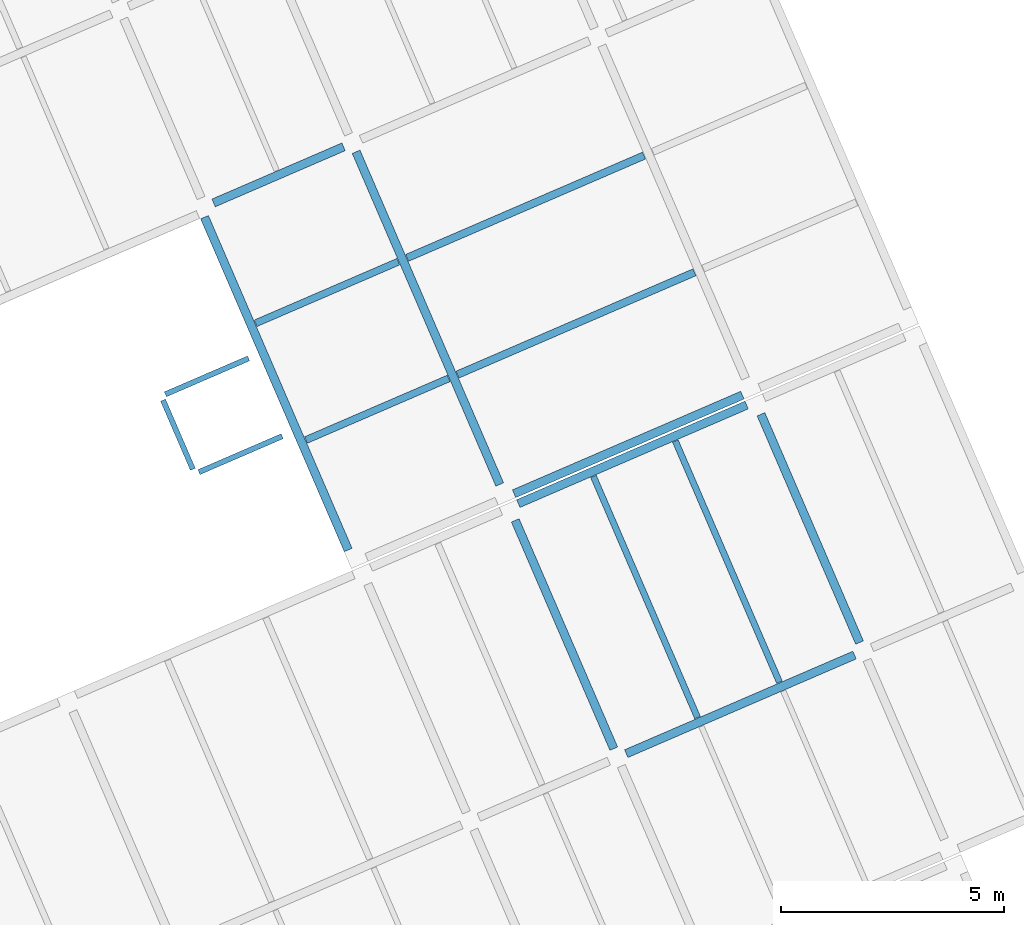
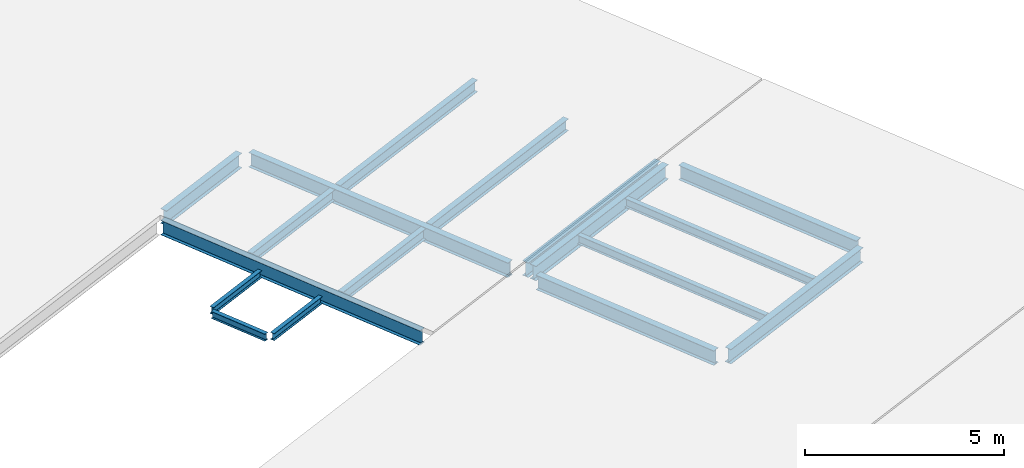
# One storey, part 12 of 15: 17 beams.
"""IFC4 building model written with IfcOpenShell, lengths in metres."""

from ifc_helpers import new_model, entity, si_unit, converted_unit, derived_unit, direction, frame, origin, place, context, subcontext, project, spatial, line, arc, indexed_curve, outline, extrude, source, transform, mapped, material, type_object, type_shapes, element, save


model = new_model("IFC4")

# Units and contexts
model_context = context("Model", 3, precision=1e-05, world=origin(), true_north=direction((6.12323399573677e-17, 1.0)))
body_context = subcontext(model_context, "Body", "Model", "MODEL_VIEW")
ifc_project = project(units=[si_unit("LENGTHUNIT", "METRE"), si_unit("AREAUNIT", "SQUARE_METRE"), si_unit("VOLUMEUNIT", "CUBIC_METRE"), converted_unit("PLANEANGLEUNIT", "DEGREE", entity("IfcPlaneAngleMeasure", 0.0174532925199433), si_unit("PLANEANGLEUNIT", "RADIAN"), dimensions=[0, 0, 0, 0, 0, 0, 0]), si_unit("MASSUNIT", "GRAM", prefix="KILO"), derived_unit("MOMENTOFINERTIAUNIT", [(si_unit("LENGTHUNIT", "METRE"), 4)]), derived_unit("LINEARFORCEUNIT", [(si_unit("MASSUNIT", "GRAM", prefix="KILO"), 1), (si_unit("TIMEUNIT", "SECOND"), -2)]), derived_unit("WARPINGCONSTANTUNIT", [(si_unit("LENGTHUNIT", "METRE"), 6)]), derived_unit("THERMALTRANSMITTANCEUNIT", [(si_unit("MASSUNIT", "GRAM", prefix="KILO"), 1), (si_unit("THERMODYNAMICTEMPERATUREUNIT", "KELVIN"), -1), (si_unit("TIMEUNIT", "SECOND"), -3)]), derived_unit("USERDEFINED", [(si_unit("MASSUNIT", "GRAM", prefix="KILO"), 1), (si_unit("TIMEUNIT", "SECOND"), -2), (si_unit("THERMODYNAMICTEMPERATUREUNIT", "KELVIN"), -1)]), derived_unit("THERMALRESISTANCEUNIT", [(si_unit("MASSUNIT", "GRAM", prefix="KILO"), -1), (si_unit("TIMEUNIT", "SECOND"), 3), (si_unit("THERMODYNAMICTEMPERATUREUNIT", "KELVIN"), 1)])], contexts=[model_context])

# Site, building, storey
site_placement = place(None, origin())
site = spatial("IfcSite", under=ifc_project, at=site_placement, Name="Default", CompositionType="ELEMENT")
building_placement = place(site_placement, frame((12.6613425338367, -82.5732315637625, 317.15), z_axis=(0.0, 0.0, 1.0), x_axis=(-0.396377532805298, 0.918087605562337, 0.0)))
building = spatial("IfcBuilding", under=site, at=building_placement, Name="CESFAM Coyhaique", CompositionType="ELEMENT")
storey_placement = place(building_placement, frame((0.0, 0.0, 8.45000000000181)))
storey = spatial("IfcBuildingStorey", under=building, at=storey_placement, Name="Nivel 3", CompositionType="ELEMENT", Elevation=8.45000000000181)

# Beams
ifc_material = material(Name="Steel, 45-345", Category="Metal")
beam_type_1 = type_object("IfcBeamType", Name="M_W Shapes:W450X190mm", PredefinedType="BEAM", material=ifc_material)
shared_shape_1 = source(origin(), body_context, "Body", "SweptSolid", [
    extrude(outline(indexed_curve([(-0.0949999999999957, -0.225000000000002), (0.0950000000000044, -0.225000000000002), (0.0950000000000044, -0.215350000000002), (0.0105700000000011, -0.215350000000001), (0.00516063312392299, -0.21310936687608), (0.0029200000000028, -0.207700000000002), (0.0029200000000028, 0.207699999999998), (0.00516063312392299, 0.213109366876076), (0.0105700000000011, 0.215349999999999), (0.0950000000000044, 0.215349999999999), (0.0950000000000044, 0.224999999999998), (-0.0949999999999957, 0.224999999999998), (-0.0949999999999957, 0.215349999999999), (-0.0105699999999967, 0.215349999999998), (-0.00516063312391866, 0.213109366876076), (-0.00291999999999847, 0.207699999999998), (-0.00291999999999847, -0.207700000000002), (-0.00516063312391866, -0.21310936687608), (-0.0105699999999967, -0.215350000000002), (-0.0949999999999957, -0.215350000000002)], segments=[line(1, 2, 3, 4), arc(4, 5, 6), line(6, 7), arc(7, 8, 9), line(9, 10, 11, 12, 13, 14), arc(14, 15, 16), line(16, 17), arc(17, 18, 19), line(19, 20, 1)], self_intersect=False)), frame((28.7688534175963, -20.9844495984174, 8.07500000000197), z_axis=(0.0, 1.0, 0.0), x_axis=(-1.0, 0.0, 0.0)), (0.0, 0.0, 1.0), 5.5746),
])
type_shapes(beam_type_1, [shared_shape_1])
beam_1_placement = place(storey_placement, frame((0.0, 0.0, -8.45000000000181)))
element("IfcBeam", 1, at=beam_1_placement, inside=storey, type_object=beam_type_1, Name="M_W Shapes:W450X190mm", ObjectType="M_W Shapes:W450X190mm", PredefinedType="BEAM", context=body_context, shape_type="MappedRepresentation", body=[
    mapped(shared_shape_1, transform((0.0, 0.0, 0.0), scale=1.0)),
])
beam_type_2 = type_object("IfcBeamType", Name="M_W Shapes:W450X190mm", PredefinedType="BEAM", material=ifc_material)
shared_shape_2 = source(origin(), body_context, "Body", "SweptSolid", [
    extrude(outline(indexed_curve([(-0.224999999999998, -0.0950000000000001), (-0.215349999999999, -0.0950000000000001), (-0.215349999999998, -0.0105699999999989), (-0.213109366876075, -0.00516063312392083), (-0.207699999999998, -0.00291999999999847), (0.207700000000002, -0.00291999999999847), (0.213109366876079, -0.00516063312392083), (0.215350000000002, -0.0105699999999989), (0.215350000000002, -0.0950000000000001), (0.225000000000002, -0.0950000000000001), (0.225000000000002, 0.0950000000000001), (0.215350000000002, 0.0950000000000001), (0.215350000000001, 0.0105700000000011), (0.213109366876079, 0.00516063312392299), (0.207700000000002, 0.00292000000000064), (-0.207699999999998, 0.00292000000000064), (-0.213109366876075, 0.00516063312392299), (-0.215349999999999, 0.0105700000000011), (-0.215349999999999, 0.0950000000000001), (-0.224999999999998, 0.0950000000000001)], segments=[line(1, 2, 3), arc(3, 4, 5), line(5, 6), arc(6, 7, 8), line(8, 9, 10, 11, 12, 13), arc(13, 14, 15), line(15, 16), arc(16, 17, 18), line(18, 19, 20, 1)], self_intersect=False)), frame((28.981553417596, -15.1971495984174, 8.07500000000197), z_axis=(1.0, 0.0, 0.0), x_axis=(0.0, 0.0, -1.0)), (0.0, 0.0, 1.0), 5.5746),
])
type_shapes(beam_type_2, [shared_shape_2])
beam_2_placement = place(storey_placement, frame((0.0, 0.0, -8.45000000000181)))
element("IfcBeam", 2, at=beam_2_placement, inside=storey, type_object=beam_type_2, Name="M_W Shapes:W450X190mm", ObjectType="M_W Shapes:W450X190mm", PredefinedType="BEAM", context=body_context, shape_type="MappedRepresentation", body=[
    mapped(shared_shape_2, transform((0.0, 0.0, 0.0), scale=1.0)),
])
beam_type_3 = type_object("IfcBeamType", Name="M_W Shapes:W450X190mm", PredefinedType="BEAM", material=ifc_material)
shared_shape_3 = source(origin(), body_context, "Body", "SweptSolid", [
    extrude(outline(indexed_curve([(-0.0950000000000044, -0.225000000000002), (0.0949999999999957, -0.225000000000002), (0.0950000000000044, -0.215350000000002), (0.0105699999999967, -0.215350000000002), (0.00516063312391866, -0.213109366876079), (0.0029200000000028, -0.207700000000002), (0.00291999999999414, 0.207699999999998), (0.00516063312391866, 0.213109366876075), (0.0105699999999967, 0.215349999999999), (0.0949999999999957, 0.215349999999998), (0.0949999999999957, 0.224999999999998), (-0.0950000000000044, 0.224999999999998), (-0.0950000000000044, 0.215349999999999), (-0.0105700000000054, 0.215349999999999), (-0.00516063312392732, 0.213109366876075), (-0.0029200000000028, 0.207699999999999), (-0.0029200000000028, -0.207700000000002), (-0.00516063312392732, -0.213109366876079), (-0.0105699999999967, -0.215350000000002), (-0.0950000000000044, -0.215350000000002)], segments=[line(1, 2, 3, 4), arc(4, 5, 6), line(6, 7), arc(7, 8, 9), line(9, 10, 11, 12, 13, 14), arc(14, 15, 16), line(16, 17), arc(17, 18, 19), line(19, 20, 1)], self_intersect=False)), frame((43.7688534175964, -14.9844495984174, 8.07500000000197), z_axis=(0.0, 1.0, 0.0), x_axis=(-1.0, 0.0, 0.0)), (0.0, 0.0, 1.0), 3.1746),
])
type_shapes(beam_type_3, [shared_shape_3])
beam_3_placement = place(storey_placement, frame((0.0, 0.0, -8.45000000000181)))
element("IfcBeam", 3, at=beam_3_placement, inside=storey, type_object=beam_type_3, Name="M_W Shapes:W450X190mm", ObjectType="M_W Shapes:W450X190mm", PredefinedType="BEAM", context=body_context, shape_type="MappedRepresentation", body=[
    mapped(shared_shape_3, transform((0.0, 0.0, 0.0), scale=1.0)),
])
beam_type_4 = type_object("IfcBeamType", Name="M_W Shapes:W450X190mm", PredefinedType="BEAM", material=ifc_material)
shared_shape_4 = source(origin(), body_context, "Body", "SweptSolid", [
    extrude(outline(indexed_curve([(-0.224999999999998, -0.0950000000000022), (-0.215349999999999, -0.0950000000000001), (-0.215349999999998, -0.0105700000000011), (-0.213109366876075, -0.00516063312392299), (-0.207699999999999, -0.00292000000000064), (0.207700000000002, -0.00292000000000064), (0.213109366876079, -0.00516063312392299), (0.215350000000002, -0.0105700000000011), (0.215350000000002, -0.0950000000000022), (0.225000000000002, -0.0950000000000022), (0.225000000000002, 0.0949999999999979), (0.215350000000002, 0.0949999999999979), (0.215350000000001, 0.0105699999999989), (0.213109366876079, 0.00516063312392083), (0.207700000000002, 0.00291999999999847), (-0.207699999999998, 0.00291999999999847), (-0.213109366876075, 0.00516063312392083), (-0.215349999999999, 0.0105699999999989), (-0.215349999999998, 0.0949999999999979), (-0.224999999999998, 0.0949999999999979)], segments=[line(1, 2, 3), arc(3, 4, 5), line(5, 6), arc(6, 7, 8), line(8, 9, 10, 11, 12, 13), arc(13, 14, 15), line(15, 16), arc(16, 17, 18), line(18, 19, 20, 1)], self_intersect=False)), frame((35.4315534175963, -11.4971495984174, 8.07500000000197), z_axis=(1.0, 0.0, 0.0), x_axis=(0.0, 0.0, -1.0)), (0.0, 0.0, 1.0), 8.1246),
])
type_shapes(beam_type_4, [shared_shape_4])
beam_4_placement = place(storey_placement, frame((0.0, 0.0, -8.45000000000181)))
element("IfcBeam", 4, at=beam_4_placement, inside=storey, type_object=beam_type_4, Name="M_W Shapes:W450X190mm", ObjectType="M_W Shapes:W450X190mm", PredefinedType="BEAM", context=body_context, shape_type="MappedRepresentation", body=[
    mapped(shared_shape_4, transform((0.0, 0.0, 0.0), scale=1.0)),
])
beam_type_5 = type_object("IfcBeamType", Name="M_W Shapes:W450X190mm", PredefinedType="BEAM", material=ifc_material)
shared_shape_5 = source(origin(), body_context, "Body", "SweptSolid", [
    extrude(outline(indexed_curve([(-0.224999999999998, -0.0950000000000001), (-0.215349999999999, -0.0949999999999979), (-0.215349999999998, -0.0105699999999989), (-0.213109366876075, -0.00516063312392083), (-0.207699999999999, -0.00291999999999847), (0.207700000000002, -0.00291999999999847), (0.213109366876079, -0.00516063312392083), (0.215350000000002, -0.0105699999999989), (0.215350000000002, -0.0950000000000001), (0.225000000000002, -0.0950000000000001), (0.225000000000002, 0.0950000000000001), (0.215350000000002, 0.0950000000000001), (0.215350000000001, 0.0105700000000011), (0.213109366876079, 0.00516063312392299), (0.207700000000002, 0.00292000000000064), (-0.207699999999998, 0.00292000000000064), (-0.213109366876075, 0.00516063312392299), (-0.215349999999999, 0.0105700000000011), (-0.215349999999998, 0.0950000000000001), (-0.224999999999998, 0.0950000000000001)], segments=[line(1, 2, 3), arc(3, 4, 5), line(5, 6), arc(6, 7, 8), line(8, 9, 10, 11, 12, 13), arc(13, 14, 15), line(15, 16), arc(16, 17, 18), line(18, 19, 20, 1)], self_intersect=False)), frame((35.4315534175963, -15.1971495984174, 8.07500000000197), z_axis=(1.0, 0.0, 0.0), x_axis=(0.0, 0.0, -1.0)), (0.0, 0.0, 1.0), 8.1246),
])
type_shapes(beam_type_5, [shared_shape_5])
beam_5_placement = place(storey_placement, frame((0.0, 0.0, -8.45000000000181)))
element("IfcBeam", 5, at=beam_5_placement, inside=storey, type_object=beam_type_5, Name="M_W Shapes:W450X190mm", ObjectType="M_W Shapes:W450X190mm", PredefinedType="BEAM", context=body_context, shape_type="MappedRepresentation", body=[
    mapped(shared_shape_5, transform((0.0, 0.0, 0.0), scale=1.0)),
])
beam_type_6 = type_object("IfcBeamType", Name="M_W Shapes:W450X190mm", PredefinedType="BEAM", material=ifc_material)
shared_shape_6 = source(origin(), body_context, "Body", "SweptSolid", [
    extrude(outline(indexed_curve([(-0.224999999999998, -0.0950000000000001), (-0.215349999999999, -0.0950000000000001), (-0.215349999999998, -0.0105700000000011), (-0.213109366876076, -0.00516063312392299), (-0.207699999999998, -0.0029200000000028), (0.207700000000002, -0.0029200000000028), (0.21310936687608, -0.00516063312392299), (0.215350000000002, -0.0105700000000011), (0.215350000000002, -0.0950000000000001), (0.225000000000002, -0.0950000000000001), (0.225000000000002, 0.0950000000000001), (0.215350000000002, 0.0950000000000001), (0.215350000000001, 0.0105699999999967), (0.21310936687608, 0.00516063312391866), (0.207700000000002, 0.00291999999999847), (-0.207699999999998, 0.00291999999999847), (-0.213109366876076, 0.00516063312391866), (-0.215349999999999, 0.0105699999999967), (-0.215349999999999, 0.0950000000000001), (-0.224999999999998, 0.0950000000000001)], segments=[line(1, 2, 3), arc(3, 4, 5), line(5, 6), arc(6, 7, 8), line(8, 9, 10, 11, 12, 13), arc(13, 14, 15), line(15, 16), arc(16, 17, 18), line(18, 19, 20, 1)], self_intersect=False)), frame((28.9815534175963, -21.1971495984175, 8.07500000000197), z_axis=(1.0, 0.0, 0.0), x_axis=(0.0, 0.0, -1.0)), (0.0, 0.0, 1.0), 5.5746),
])
type_shapes(beam_type_6, [shared_shape_6])
beam_6_placement = place(storey_placement, frame((0.0, 0.0, -8.45000000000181)))
element("IfcBeam", 6, at=beam_6_placement, inside=storey, type_object=beam_type_6, Name="M_W Shapes:W450X190mm", ObjectType="M_W Shapes:W450X190mm", PredefinedType="BEAM", context=body_context, shape_type="MappedRepresentation", body=[
    mapped(shared_shape_6, transform((0.0, 0.0, 0.0), scale=1.0)),
])
beam_type_7 = type_object("IfcBeamType", Name="M_W Shapes:W450X190mm", PredefinedType="BEAM", material=ifc_material)
shared_shape_7 = source(origin(), body_context, "Body", "SweptSolid", [
    extrude(outline(indexed_curve([(-0.0950000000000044, -0.225000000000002), (0.0949999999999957, -0.225000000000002), (0.0949999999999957, -0.215350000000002), (0.0105699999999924, -0.215350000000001), (0.00516063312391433, -0.21310936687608), (0.00291999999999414, -0.207700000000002), (0.00291999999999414, 0.207699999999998), (0.00516063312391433, 0.213109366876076), (0.0105699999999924, 0.215349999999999), (0.0949999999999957, 0.215349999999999), (0.0949999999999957, 0.224999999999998), (-0.0950000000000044, 0.224999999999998), (-0.0950000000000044, 0.215349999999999), (-0.0105700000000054, 0.215349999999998), (-0.00516063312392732, 0.213109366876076), (-0.00292000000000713, 0.207699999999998), (-0.00292000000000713, -0.207700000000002), (-0.00516063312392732, -0.21310936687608), (-0.0105700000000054, -0.215350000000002), (-0.0950000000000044, -0.215350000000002)], segments=[line(1, 2, 3, 4), arc(4, 5, 6), line(6, 7), arc(7, 8, 9), line(9, 10, 11, 12, 13, 14), arc(14, 15, 16), line(16, 17), arc(17, 18, 19), line(19, 20, 1)], self_intersect=False)), frame((34.8738534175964, -20.9844495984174, 8.07500000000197), z_axis=(0.0, 1.0, 0.0), x_axis=(-1.0, 0.0, 0.0)), (0.0, 0.0, 1.0), 5.5746),
])
type_shapes(beam_type_7, [shared_shape_7])
beam_7_placement = place(storey_placement, frame((0.0, 0.0, -8.45000000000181)))
element("IfcBeam", 7, at=beam_7_placement, inside=storey, type_object=beam_type_7, Name="M_W Shapes:W450X190mm", ObjectType="M_W Shapes:W450X190mm", PredefinedType="BEAM", context=body_context, shape_type="MappedRepresentation", body=[
    mapped(shared_shape_7, transform((0.0, 0.0, 0.0), scale=1.0)),
])
beam_type_8 = type_object("IfcBeamType", Name="M_W Shapes:W450X190mm", PredefinedType="BEAM", material=ifc_material)
shared_shape_8 = source(origin(), body_context, "Body", "SweptSolid", [
    extrude(outline(indexed_curve([(-0.0950000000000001, -0.225000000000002), (0.0950000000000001, -0.225000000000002), (0.0950000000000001, -0.215350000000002), (0.0105699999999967, -0.215350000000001), (0.00516063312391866, -0.21310936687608), (0.00291999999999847, -0.207700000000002), (0.00291999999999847, 0.207699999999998), (0.00516063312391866, 0.213109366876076), (0.0105699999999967, 0.215349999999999), (0.0950000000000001, 0.215349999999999), (0.0950000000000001, 0.224999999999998), (-0.0950000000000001, 0.224999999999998), (-0.0950000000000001, 0.215349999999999), (-0.0105700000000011, 0.215349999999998), (-0.00516063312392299, 0.213109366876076), (-0.0029200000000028, 0.207699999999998), (-0.0029200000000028, -0.207700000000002), (-0.00516063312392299, -0.21310936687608), (-0.0105700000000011, -0.215350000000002), (-0.0950000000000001, -0.215350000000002)], segments=[line(1, 2, 3, 4), arc(4, 5, 6), line(6, 7), arc(7, 8, 9), line(9, 10, 11, 12, 13, 14), arc(14, 15, 16), line(16, 17), arc(17, 18, 19), line(19, 20, 1)], self_intersect=False)), frame((35.1138534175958, -20.9844495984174, 8.07500000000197), z_axis=(0.0, 1.0, 0.0), x_axis=(-1.0, 0.0, 0.0)), (0.0, 0.0, 1.0), 5.5746),
])
type_shapes(beam_type_8, [shared_shape_8])
beam_8_placement = place(storey_placement, frame((0.0, 0.0, -8.45000000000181)))
element("IfcBeam", 8, at=beam_8_placement, inside=storey, type_object=beam_type_8, Name="M_W Shapes:W450X190mm", ObjectType="M_W Shapes:W450X190mm", PredefinedType="BEAM", context=body_context, shape_type="MappedRepresentation", body=[
    mapped(shared_shape_8, transform((0.0, 0.0, 0.0), scale=1.0)),
])
beam_type_9 = type_object("IfcBeamType", Name="M_W Shapes:W270X140mm", PredefinedType="BEAM", material=ifc_material)
shared_shape_9 = source(origin(), body_context, "Body", "SweptSolid", [
    extrude(outline(indexed_curve([(-0.135000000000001, -0.0699999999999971), (-0.125350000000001, -0.0699999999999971), (-0.12535, -0.0105699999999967), (-0.123109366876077, -0.00516063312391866), (-0.117700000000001, -0.0029199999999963), (0.117699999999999, -0.0029199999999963), (0.123109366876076, -0.00516063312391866), (0.12535, -0.0105699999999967), (0.12535, -0.0699999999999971), (0.135, -0.0699999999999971), (0.135, 0.0700000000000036), (0.12535, 0.0700000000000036), (0.125349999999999, 0.0105700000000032), (0.123109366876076, 0.00516063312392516), (0.117699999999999, 0.0029200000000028), (-0.1177, 0.0029200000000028), (-0.123109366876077, 0.00516063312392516), (-0.125350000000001, 0.0105700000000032), (-0.125350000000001, 0.0700000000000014), (-0.135, 0.0700000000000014)], segments=[line(1, 2, 3), arc(3, 4, 5), line(5, 6), arc(6, 7, 8), line(8, 9, 10, 11, 12, 13), arc(13, 14, 15), line(15, 16), arc(16, 17, 18), line(18, 19, 20, 1)], self_intersect=False)), frame((28.8765534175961, -17.1972701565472, 8.16500000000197), z_axis=(1.0, 0.0, 0.0), x_axis=(0.0, 0.0, -1.0)), (0.0, 0.0, 1.0), 5.8896),
])
type_shapes(beam_type_9, [shared_shape_9])
beam_9_placement = place(storey_placement, frame((0.0, 0.0, -8.45000000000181)))
element("IfcBeam", 9, at=beam_9_placement, inside=storey, type_object=beam_type_9, Name="M_W Shapes:W270X140mm", ObjectType="M_W Shapes:W270X140mm", PredefinedType="BEAM", context=body_context, shape_type="MappedRepresentation", body=[
    mapped(shared_shape_9, transform((0.0, 0.0, 0.0), scale=1.0)),
])
beam_type_10 = type_object("IfcBeamType", Name="M_W Shapes:W270X140mm", PredefinedType="BEAM", material=ifc_material)
shared_shape_10 = source(origin(), body_context, "Body", "SweptSolid", [
    extrude(outline(indexed_curve([(-0.135000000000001, -0.0699999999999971), (-0.125350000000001, -0.0699999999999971), (-0.12535, -0.0105699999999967), (-0.123109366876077, -0.00516063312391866), (-0.117700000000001, -0.0029199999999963), (0.117699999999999, -0.0029199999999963), (0.123109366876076, -0.00516063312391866), (0.12535, -0.0105699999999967), (0.12535, -0.0699999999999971), (0.135, -0.0699999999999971), (0.135, 0.0700000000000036), (0.12535, 0.0700000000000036), (0.125349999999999, 0.0105700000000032), (0.123109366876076, 0.00516063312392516), (0.117699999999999, 0.0029200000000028), (-0.1177, 0.0029200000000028), (-0.123109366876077, 0.00516063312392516), (-0.125350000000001, 0.0105700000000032), (-0.125350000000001, 0.0700000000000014), (-0.135, 0.0700000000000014)], segments=[line(1, 2, 3), arc(3, 4, 5), line(5, 6), arc(6, 7, 8), line(8, 9, 10, 11, 12, 13), arc(13, 14, 15), line(15, 16), arc(16, 17, 18), line(18, 19, 20, 1)], self_intersect=False)), frame((28.8765534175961, -19.1972701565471, 8.16500000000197), z_axis=(1.0, 0.0, 0.0), x_axis=(0.0, 0.0, -1.0)), (0.0, 0.0, 1.0), 5.8896),
])
type_shapes(beam_type_10, [shared_shape_10])
beam_10_placement = place(storey_placement, frame((0.0, 0.0, -8.45000000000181)))
element("IfcBeam", 10, at=beam_10_placement, inside=storey, type_object=beam_type_10, Name="M_W Shapes:W270X140mm", ObjectType="M_W Shapes:W270X140mm", PredefinedType="BEAM", context=body_context, shape_type="MappedRepresentation", body=[
    mapped(shared_shape_10, transform((0.0, 0.0, 0.0), scale=1.0)),
])
beam_type_11 = type_object("IfcBeamType", Name="M_W Shapes:W330X160mm", PredefinedType="BEAM", material=ifc_material)
shared_shape_11 = source(origin(), body_context, "Body", "SweptSolid", [
    extrude(outline(indexed_curve([(-0.0800000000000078, -0.165), (0.0799999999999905, -0.164999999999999), (0.0799999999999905, -0.155349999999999), (0.0105699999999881, -0.155349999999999), (0.00516063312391, -0.153109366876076), (0.00291999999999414, -0.147699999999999), (0.00291999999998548, 0.147700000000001), (0.00516063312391, 0.153109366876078), (0.0105699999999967, 0.15535), (0.0799999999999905, 0.15535), (0.0799999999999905, 0.165), (-0.0800000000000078, 0.165), (-0.0800000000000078, 0.15535), (-0.0105700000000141, 0.155350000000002), (-0.00516063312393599, 0.153109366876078), (-0.00292000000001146, 0.147700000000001), (-0.00292000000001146, -0.147699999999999), (-0.00516063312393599, -0.153109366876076), (-0.0105700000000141, -0.155349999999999), (-0.0800000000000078, -0.155349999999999)], segments=[line(1, 2, 3, 4), arc(4, 5, 6), line(6, 7), arc(7, 8, 9), line(9, 10, 11, 12, 13, 14), arc(14, 15, 16), line(16, 17), arc(17, 18, 19), line(19, 20, 1)], self_intersect=False)), frame((40.9187775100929, -15.0894495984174, 8.13500000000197), z_axis=(0.0, 1.0, 0.0), x_axis=(-1.0, 0.0, 0.0)), (0.0, 0.0, 1.0), 3.4846),
])
type_shapes(beam_type_11, [shared_shape_11])
beam_11_placement = place(storey_placement, frame((0.0, 0.0, -8.45000000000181)))
element("IfcBeam", 11, at=beam_11_placement, inside=storey, type_object=beam_type_11, Name="M_W Shapes:W330X160mm", ObjectType="M_W Shapes:W330X160mm", PredefinedType="BEAM", context=body_context, shape_type="MappedRepresentation", body=[
    mapped(shared_shape_11, transform((0.0, 0.0, 0.0), scale=1.0)),
])
beam_type_12 = type_object("IfcBeamType", Name="M_W Shapes:W360X170mm", PredefinedType="BEAM", material=ifc_material)
shared_shape_12 = source(origin(), body_context, "Body", "SweptSolid", [
    extrude(outline(indexed_curve([(-0.084999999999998, -0.180000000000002), (0.084999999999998, -0.180000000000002), (0.084999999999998, -0.170350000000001), (0.0105699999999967, -0.170350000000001), (0.00516063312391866, -0.168109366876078), (0.0029200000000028, -0.162700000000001), (0.00291999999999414, 0.162699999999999), (0.00516063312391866, 0.168109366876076), (0.0105699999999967, 0.170349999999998), (0.084999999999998, 0.170349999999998), (0.084999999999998, 0.179999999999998), (-0.084999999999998, 0.179999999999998), (-0.084999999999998, 0.170349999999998), (-0.0105700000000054, 0.170349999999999), (-0.00516063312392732, 0.168109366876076), (-0.0029200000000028, 0.162699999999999), (-0.0029200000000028, -0.162700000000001), (-0.00516063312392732, -0.168109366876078), (-0.0105700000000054, -0.170350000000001), (-0.084999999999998, -0.170350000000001)], segments=[line(1, 2, 3, 4), arc(4, 5, 6), line(6, 7), arc(7, 8, 9), line(9, 10, 11, 12, 13, 14), arc(14, 15, 16), line(16, 17), arc(17, 18, 19), line(19, 20, 1)], self_intersect=False)), frame((40.918777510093, -21.0894495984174, 8.12000000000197), z_axis=(0.0, 1.0, 0.0), x_axis=(-1.0, 0.0, 0.0)), (0.0, 0.0, 1.0), 5.7846),
])
type_shapes(beam_type_12, [shared_shape_12])
beam_12_placement = place(storey_placement, frame((0.0, 0.0, -8.45000000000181)))
element("IfcBeam", 12, at=beam_12_placement, inside=storey, type_object=beam_type_12, Name="M_W Shapes:W360X170mm", ObjectType="M_W Shapes:W360X170mm", PredefinedType="BEAM", context=body_context, shape_type="MappedRepresentation", body=[
    mapped(shared_shape_12, transform((0.0, 0.0, 0.0), scale=1.0)),
])
beam_type_13 = type_object("IfcBeamType", Name="M_W Shapes:W330X160mm", PredefinedType="BEAM", material=ifc_material)
shared_shape_13 = source(origin(), body_context, "Body", "SweptSolid", [
    extrude(outline(indexed_curve([(-0.0799999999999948, -0.165), (0.0800000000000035, -0.164999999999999), (0.0800000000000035, -0.155349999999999), (0.0105700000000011, -0.155349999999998), (0.00516063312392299, -0.153109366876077), (0.0029200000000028, -0.147699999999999), (0.0029200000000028, 0.147700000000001), (0.00516063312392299, 0.153109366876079), (0.0105700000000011, 0.15535), (0.0800000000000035, 0.15535), (0.0800000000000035, 0.165), (-0.0799999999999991, 0.165), (-0.0799999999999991, 0.15535), (-0.0105699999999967, 0.15535), (-0.00516063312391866, 0.153109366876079), (-0.00291999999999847, 0.147700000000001), (-0.00291999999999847, -0.147699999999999), (-0.00516063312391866, -0.153109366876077), (-0.0105699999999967, -0.155349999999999), (-0.0799999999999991, -0.155349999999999)], segments=[line(1, 2, 3, 4), arc(4, 5, 6), line(6, 7), arc(7, 8, 9), line(9, 10, 11, 12, 13, 14), arc(14, 15, 16), line(16, 17), arc(17, 18, 19), line(19, 20, 1)], self_intersect=False)), frame((38.068777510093, -15.0894495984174, 8.13500000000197), z_axis=(0.0, 1.0, 0.0), x_axis=(-1.0, 0.0, 0.0)), (0.0, 0.0, 1.0), 3.4846),
])
type_shapes(beam_type_13, [shared_shape_13])
beam_13_placement = place(storey_placement, frame((0.0, 0.0, -8.45000000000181)))
element("IfcBeam", 13, at=beam_13_placement, inside=storey, type_object=beam_type_13, Name="M_W Shapes:W330X160mm", ObjectType="M_W Shapes:W330X160mm", PredefinedType="BEAM", context=body_context, shape_type="MappedRepresentation", body=[
    mapped(shared_shape_13, transform((0.0, 0.0, 0.0), scale=1.0)),
])
beam_type_14 = type_object("IfcBeamType", Name="M_W Shapes:W360X170mm", PredefinedType="BEAM", material=ifc_material)
shared_shape_14 = source(origin(), body_context, "Body", "SweptSolid", [
    extrude(outline(indexed_curve([(-0.084999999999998, -0.180000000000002), (0.0850000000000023, -0.180000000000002), (0.0850000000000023, -0.170350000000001), (0.0105700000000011, -0.17035), (0.00516063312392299, -0.168109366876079), (0.0029200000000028, -0.162700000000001), (0.0029200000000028, 0.162699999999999), (0.00516063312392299, 0.168109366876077), (0.0105700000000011, 0.170349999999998), (0.0850000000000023, 0.170349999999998), (0.0850000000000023, 0.179999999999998), (-0.084999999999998, 0.179999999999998), (-0.084999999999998, 0.170349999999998), (-0.0105699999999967, 0.170349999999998), (-0.00516063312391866, 0.168109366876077), (-0.00291999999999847, 0.162699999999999), (-0.00291999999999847, -0.162700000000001), (-0.00516063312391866, -0.168109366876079), (-0.0105699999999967, -0.170350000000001), (-0.084999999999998, -0.170350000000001)], segments=[line(1, 2, 3, 4), arc(4, 5, 6), line(6, 7), arc(7, 8, 9), line(9, 10, 11, 12, 13, 14), arc(14, 15, 16), line(16, 17), arc(17, 18, 19), line(19, 20, 1)], self_intersect=False)), frame((38.068777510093, -21.0894495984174, 8.12000000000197), z_axis=(0.0, 1.0, 0.0), x_axis=(-1.0, 0.0, 0.0)), (0.0, 0.0, 1.0), 5.7846),
])
type_shapes(beam_type_14, [shared_shape_14])
beam_14_placement = place(storey_placement, frame((0.0, 0.0, -8.45000000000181)))
element("IfcBeam", 14, at=beam_14_placement, inside=storey, type_object=beam_type_14, Name="M_W Shapes:W360X170mm", ObjectType="M_W Shapes:W360X170mm", PredefinedType="BEAM", context=body_context, shape_type="MappedRepresentation", body=[
    mapped(shared_shape_14, transform((0.0, 0.0, 0.0), scale=1.0)),
])
beam_type_15 = type_object("IfcBeamType", Name="M_W Shapes:W220X120mm", PredefinedType="BEAM", material=ifc_material)
shared_shape_15 = source(origin(), body_context, "Body", "SweptSolid", [
    extrude(outline(indexed_curve([(-0.110000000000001, -0.0600000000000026), (-0.100350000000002, -0.0600000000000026), (-0.100350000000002, -0.0105700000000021), (-0.0981093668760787, -0.00516063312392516), (-0.0927000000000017, -0.0029200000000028), (0.0926999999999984, -0.00292000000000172), (0.0981093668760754, -0.00516063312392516), (0.100349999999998, -0.0105700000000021), (0.100349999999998, -0.0600000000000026), (0.109999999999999, -0.0600000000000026), (0.109999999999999, 0.0599999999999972), (0.100349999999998, 0.0599999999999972), (0.100349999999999, 0.0105699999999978), (0.0981093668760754, 0.00516063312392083), (0.0926999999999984, 0.00291999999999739), (-0.0927000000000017, 0.00291999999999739), (-0.0981093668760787, 0.00516063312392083), (-0.100350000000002, 0.0105699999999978), (-0.100350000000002, 0.0599999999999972), (-0.110000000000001, 0.0599999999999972)], segments=[line(1, 2, 3), arc(3, 4, 5), line(5, 6), arc(6, 7, 8), line(8, 9, 10, 11, 12, 13), arc(13, 14, 15), line(15, 16), arc(16, 17, 18), line(18, 19, 20, 1)], self_intersect=False)), frame((38.4718924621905, -9.01714975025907, 8.19000000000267), z_axis=(1.0, 0.0, 0.0), x_axis=(0.0, 0.0, -1.0)), (0.0, 0.0, 1.0), 1.6871),
])
type_shapes(beam_type_15, [shared_shape_15])
beam_15_placement = place(storey_placement, frame((0.0, 0.0, -8.45000000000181)))
element("IfcBeam", 15, at=beam_15_placement, inside=storey, type_object=beam_type_15, Name="M_W Shapes:W220X120mm", ObjectType="M_W Shapes:W220X120mm", PredefinedType="BEAM", context=body_context, shape_type="MappedRepresentation", body=[
    mapped(shared_shape_15, transform((0.0, 0.0, 0.0), scale=1.0)),
])
beam_type_16 = type_object("IfcBeamType", Name="M_W Shapes:W220X120mm", PredefinedType="BEAM", material=ifc_material)
shared_shape_16 = source(origin(), body_context, "Body", "SweptSolid", [
    extrude(outline(indexed_curve([(-0.059999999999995, -0.11), (0.0600000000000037, -0.11), (0.0600000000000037, -0.100350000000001), (0.0105700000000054, -0.100350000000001), (0.00516063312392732, -0.0981093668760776), (0.0029200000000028, -0.0927000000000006), (0.0029200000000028, 0.0926999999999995), (0.00516063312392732, 0.0981093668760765), (0.0105700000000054, 0.100349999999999), (0.0600000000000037, 0.100349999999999), (0.0600000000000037, 0.11), (-0.059999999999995, 0.11), (-0.059999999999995, 0.100349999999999), (-0.0105699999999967, 0.10035), (-0.00516063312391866, 0.0981093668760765), (-0.0029200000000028, 0.0926999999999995), (-0.00291999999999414, -0.0927000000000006), (-0.00516063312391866, -0.0981093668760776), (-0.0105699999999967, -0.100350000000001), (-0.059999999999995, -0.100350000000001)], segments=[line(1, 2, 3, 4), arc(4, 5, 6), line(6, 7), arc(7, 8, 9), line(9, 10, 11, 12, 13, 14), arc(14, 15, 16), line(16, 17), arc(17, 18, 19), line(19, 20, 1)], self_intersect=False)), frame((40.2590055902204, -9.11714975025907, 8.19000000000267), z_axis=(0.0, -1.0, 0.0), x_axis=(-1.0, 0.0, 0.0)), (0.0, 0.0, 1.0), 2.0323),
])
type_shapes(beam_type_16, [shared_shape_16])
beam_16_placement = place(storey_placement, frame((0.0, 0.0, -8.45000000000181)))
element("IfcBeam", 16, at=beam_16_placement, inside=storey, type_object=beam_type_16, Name="M_W Shapes:W220X120mm", ObjectType="M_W Shapes:W220X120mm", PredefinedType="BEAM", context=body_context, shape_type="MappedRepresentation", body=[
    mapped(shared_shape_16, transform((0.0, 0.0, 0.0), scale=1.0)),
])
beam_type_17 = type_object("IfcBeamType", Name="M_W Shapes:W220X120mm", PredefinedType="BEAM", material=ifc_material)
shared_shape_17 = source(origin(), body_context, "Body", "SweptSolid", [
    extrude(outline(indexed_curve([(-0.0600000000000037, -0.11), (0.059999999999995, -0.11), (0.059999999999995, -0.100350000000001), (0.0105699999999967, -0.10035), (0.00516063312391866, -0.0981093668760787), (0.00291999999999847, -0.0927000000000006), (0.00291999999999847, 0.0926999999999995), (0.00516063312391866, 0.0981093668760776), (0.0105699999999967, 0.100349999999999), (0.059999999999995, 0.100349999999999), (0.059999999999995, 0.11), (-0.0600000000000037, 0.11), (-0.0600000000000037, 0.100349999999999), (-0.0105700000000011, 0.100349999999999), (-0.00516063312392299, 0.0981093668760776), (-0.0029200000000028, 0.0926999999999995), (-0.0029200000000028, -0.0927000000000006), (-0.00516063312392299, -0.0981093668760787), (-0.0105700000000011, -0.100350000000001), (-0.0600000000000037, -0.100350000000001)], segments=[line(1, 2, 3, 4), arc(4, 5, 6), line(6, 7), arc(7, 8, 9), line(9, 10, 11, 12, 13, 14), arc(14, 15, 16), line(16, 17), arc(17, 18, 19), line(19, 20, 1)], self_intersect=False)), frame((38.3590943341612, -9.11714975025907, 8.19000000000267), z_axis=(0.0, -1.0, 0.0), x_axis=(-1.0, 0.0, 0.0)), (0.0, 0.0, 1.0), 2.0323),
])
type_shapes(beam_type_17, [shared_shape_17])
beam_17_placement = place(storey_placement, frame((0.0, 0.0, -8.45000000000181)))
element("IfcBeam", 17, at=beam_17_placement, inside=storey, type_object=beam_type_17, Name="M_W Shapes:W220X120mm", ObjectType="M_W Shapes:W220X120mm", PredefinedType="BEAM", context=body_context, shape_type="MappedRepresentation", body=[
    mapped(shared_shape_17, transform((0.0, 0.0, 0.0), scale=1.0)),
])

save(model, "model.ifc")
